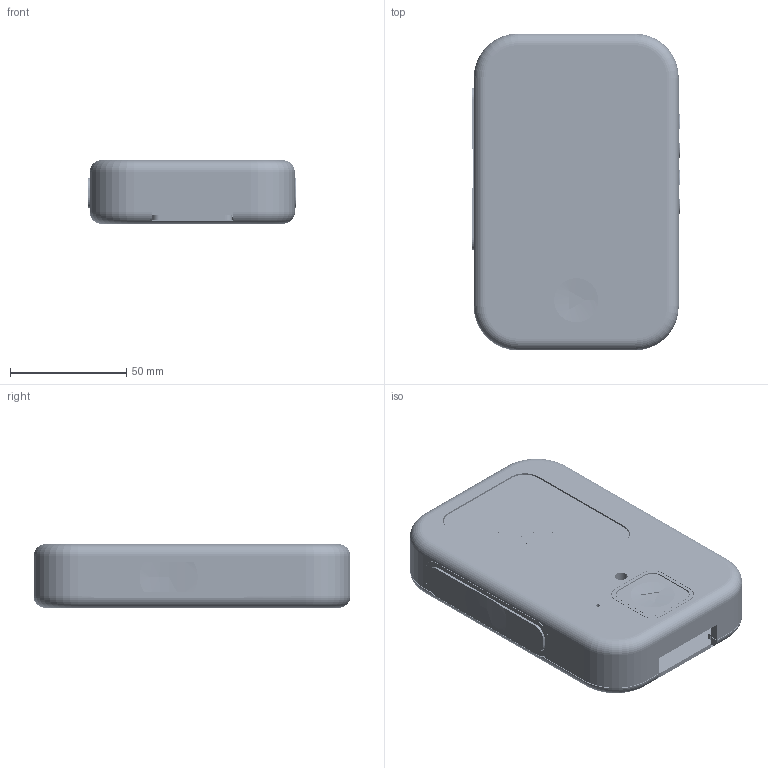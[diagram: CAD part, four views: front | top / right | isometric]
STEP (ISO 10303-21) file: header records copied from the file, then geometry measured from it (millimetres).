
FILE_DESCRIPTION(('Open CASCADE Model'),'2;1');
FILE_NAME('Open CASCADE Shape Model','2026-09-06T11:41:03',('Author'),( 'Open CASCADE'),'Open CASCADE STEP processor 7.7','Open CASCADE 7.7' ,'Unknown');
FILE_SCHEMA(('AUTOMOTIVE_DESIGN { 1 0 10303 214 1 1 1 1 }'));
Length unit declared in the file: millimetre
Products named in the file (76): Walkie_One_20_2_R8_Astra; 01_front_structural_tub; 01_front_structural_tub_part; 02_rear_structural_cover; 02_rear_structural_cover_part; 03_front_soft_touch_skin; 03_front_soft_touch_skin_part; 04_rear_soft_touch_skin; 04_rear_soft_touch_skin_part; 05_grille_backing_and_bond_flange; 05_grille_backing_and_bond_flange_part; 06_acoustic_fabric_cut_pattern; 06_acoustic_fabric_cut_pattern_part; 07_speaker_edge_cradle; 07_speaker_edge_cradle_part; 08_speaker_front_gasket; 08_speaker_front_gasket_part; 09_battery_tray; 09_battery_tray_part; 10_ptt_key; 10_ptt_key_part; 11_ptt_metal_rim; 11_ptt_metal_rim_part; 12_ptt_switch_carrier; 12_ptt_switch_carrier_part; 10_volume_plus_key; 10_volume_plus_key_part; 11_volume_plus_metal_rim; 11_volume_plus_metal_rim_part; 12_volume_plus_switch_carrier; 12_volume_plus_switch_carrier_part; 10_volume_minus_key; 10_volume_minus_key_part; 11_volume_minus_metal_rim; 11_volume_minus_metal_rim_part; 12_volume_minus_switch_carrier; 12_volume_minus_switch_carrier_part; 13_front_concave_action_key; 13_front_concave_action_key_part; 14_front_action_metal_rim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
Assembly tree (75 placements, depth 4):
  Walkie_One_20_2_R8_Astra
    Walkie_One_20_2_R8_Astra
      01_front_structural_tub
        01_front_structural_tub_part
      02_rear_structural_cover
        02_rear_structural_cover_part
      03_front_soft_touch_skin
        03_front_soft_touch_skin_part
      04_rear_soft_touch_skin
        04_rear_soft_touch_skin_part
      05_grille_backing_and_bond_flange
        05_grille_backing_and_bond_flange_part
      06_acoustic_fabric_cut_pattern
        06_acoustic_fabric_cut_pattern_part
      07_speaker_edge_cradle
        07_speaker_edge_cradle_part
      08_speaker_front_gasket
        08_speaker_front_gasket_part
      09_battery_tray
        09_battery_tray_part
      10_ptt_key
        10_ptt_key_part
      11_ptt_metal_rim
        11_ptt_metal_rim_part
      12_ptt_switch_carrier
        12_ptt_switch_carrier_part
      10_volume_plus_key
        10_volume_plus_key_part
      11_volume_plus_metal_rim
        11_volume_plus_metal_rim_part
      12_volume_plus_switch_carrier
        12_volume_plus_switch_carrier_part
      10_volume_minus_key
        10_volume_minus_key_part
      11_volume_minus_metal_rim
        11_volume_minus_metal_rim_part
      12_volume_minus_switch_carrier
        12_volume_minus_switch_carrier_part
      13_front_concave_action_key
        13_front_concave_action_key_part
      14_front_action_metal_rim
        14_front_action_metal_rim_part
      15_front_switch_carrier
        15_front_switch_carrier_part
      15b_front_switch_retainer
        15b_front_switch_retainer_part
      16_rgb_led_support_ring
        16_rgb_led_support_ring_part
      17_microphone_cradle
        17_microphone_cradle_part
      18_microphone_acoustic_gasket
        18_microphone_acoustic_gasket_part
      19_lte_antenna_seat
        19_lte_antenna_seat_part
      20_service_notch_cover
        20_service_notch_cover_part
      21_ptt_stop_cassette
        21_ptt_stop_cassette_part
      21_volume_plus_stop_cassette
        21_volume_plus_stop_cassette_part
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Bounding box: 89.16 x 136 x 27.2 mm (x, y, z)
Volume: 110706.4 mm3; surface area: 160886.3 mm2
Topology: 249 solids, 249 shells, 22556 faces, 65741 edges, 43801 vertices
Faces by surface type: plane 21682, cylinder 655, extrusion 183, torus 32, sphere 4
Full cylindrical faces by diameter (mm): 1.1 x2, 1.25 x10, 1.4 x8, 1.5 x4, 1.6 x12, 1.8 x13, 2.1 x3, 2.6 x8, 2.8 x4, 3.6 x14, 4 x3, 4.6 x2, 5 x1, 5.3 x8, 5.4 x2, 6 x1, 6.2 x1, 6.3 x1, 6.8 x4, 8.4 x1, 36.4 x1, 39.6 x1
Entity records: 1592685 total; most frequent: CARTESIAN_POINT 268725, DIRECTION 243695, VECTOR 193433, LINE 193250, ORIENTED_EDGE 131480, PCURVE 131480, DEFINITIONAL_REPRESENTATION 131480, EDGE_CURVE 65740
